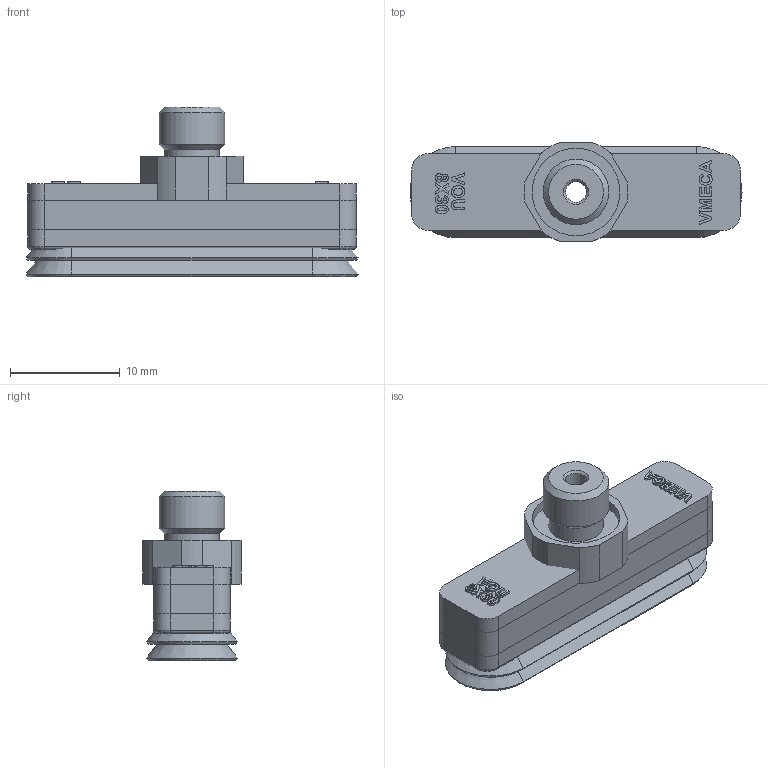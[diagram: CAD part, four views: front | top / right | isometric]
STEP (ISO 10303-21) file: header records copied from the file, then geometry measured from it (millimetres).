
FILE_DESCRIPTION( ( 'Unknown' ), '1' );
FILE_NAME( 'C:/Documents and Settings/owner/官帕 拳搁/MISUMI/PAD/VOU/VOU 8X30-N-M6M.stp', 'Unknown', ( 'Unknown' ), ( 'Unknown' ), 'XStep 1.0', 'Unknown', ' ' );
FILE_SCHEMA( ( 'automotive_design' ) );
Length unit declared in the file: millimetre
Products named in the file (3): Assem1; 8X30_STP; VOU M6M
Bounding box: 30.32 x 9 x 15.5 mm (x, y, z)
Volume: 3472.1 mm3; surface area: 3096.1 mm2
Topology: 4 solids, 4 shells, 324 faces, 782 edges, 506 vertices
Faces by surface type: plane 226, cylinder 44, extrusion 32, cone 14, torus 8
Full cylindrical faces by diameter (mm): 1.9 x2, 3 x2, 3.1 x2, 5 x2, 6 x2, 8 x2
Entity records: 6631 total; most frequent: CARTESIAN_POINT 1792, ORIENTED_EDGE 748, DIRECTION 711, EDGE_CURVE 374, VECTOR 303, LINE 287, VERTEX_POINT 251, AXIS2_PLACEMENT_3D 204
